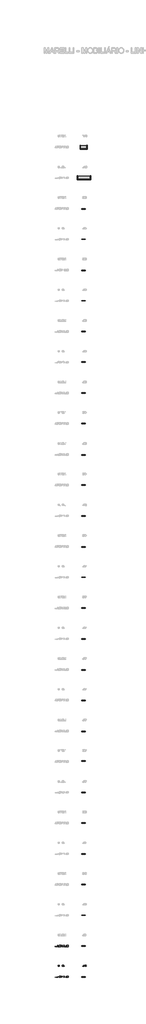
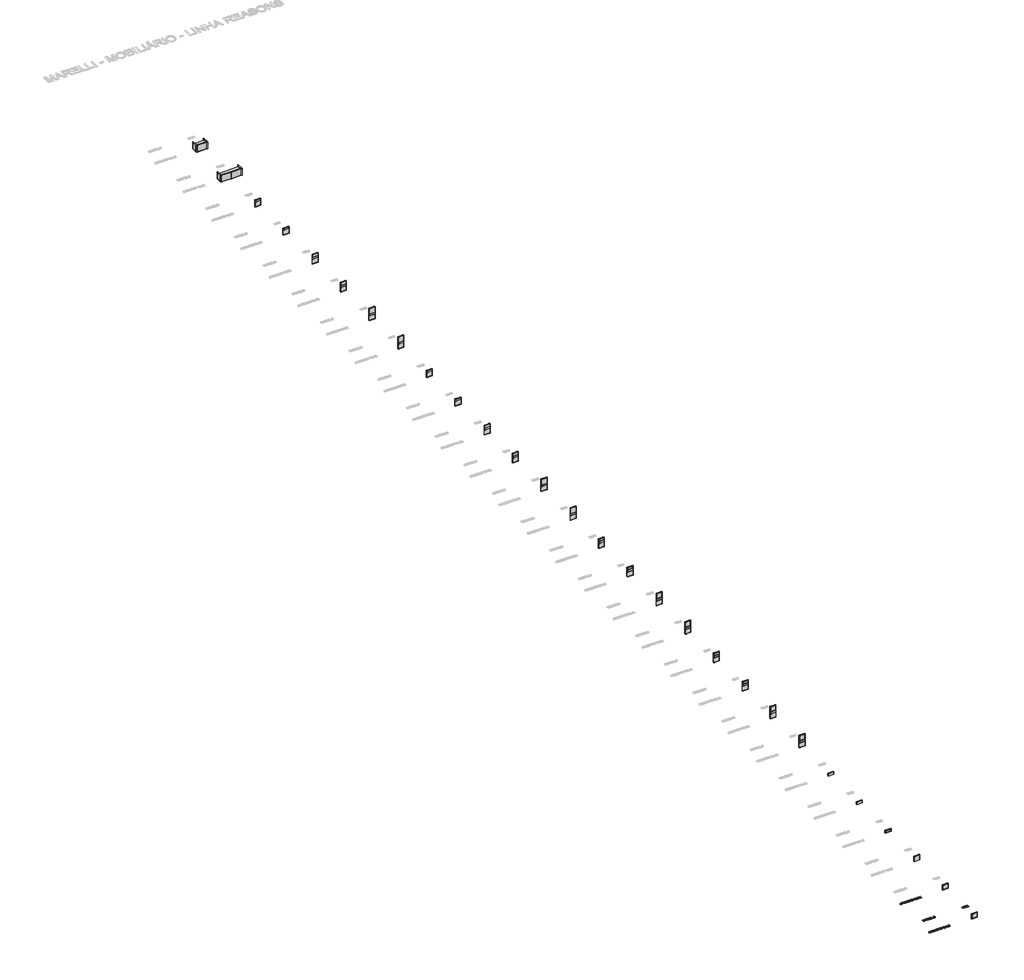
# One storey, part 1 of 15: 28 furniture elements, 4 proxies.
"""IFC4 building model written with IfcOpenShell, lengths in millimetres."""

from ifc_helpers import new_model, si_unit, origin, origin_with_axes, place, context, project, spatial, polyline, outline, extrude, transform, mapped, element, save
from components import ba_01_71997d73, ba_02_3c27d150, rmc_0809_a_63fcd4b5, rmc_0809_ad_62c178f1, rmc_0813_a_a7bc62cc, rmc_0813_ad_bde6f8cc, rtc_0817_ad_4a41ce44, rmc_0817_ad_4f5cd23f, rme_0803_7866bef5, rme_0807_42b6b41e, rmv_0813_a_d4f5b42d, rmv_0813_ad_31e4a156, rmv_0817_a_99f153d6, rmv_0817_ad_dfffa145, rtv_0817_ad_a64ea4e4, rve_0803_32e8251a, rve_0807_c5e54516

model = new_model("IFC4")

# Units and contexts
model_context = context("Model", 3, world=origin())
ifc_project = project(units=[si_unit("LENGTHUNIT", "METRE", prefix="MILLI")], contexts=[model_context])

# Site, building, storey
site = spatial("IfcSite", under=ifc_project)
building = spatial("IfcBuilding", under=site)
storey = spatial("IfcBuildingStorey", under=building, Name="Marelli - Linha REASONS - Planta Baixa", Elevation=0.0)

# Proxies
placement = place(None, origin())
element("IfcBuildingElementProxy", 1, Name="300mm Arial", ObjectType="300mm Arial", at=placement, inside=storey, context=model_context, shape_type="SweptSolid", body=[
    extrude(outline(polyline([(9390.580402, -175280.5663201), (9510.8778144, -174979.1973896), (9542.9571244, -174979.1973896), (9663.2545368, -175280.5663201), (9623.449705, -175280.5663201), (9588.9423738, -175186.3885293), (9464.8189886, -175186.3885293), (9430.3852339, -175280.5663201), (9390.580402, -175280.5663201)]), holes=[polyline([(9478.6513517, -175148.717413), (9575.1835872, -175148.717413), (9548.0338959, -175074.6259792), (9526.9174694, -175016.8685059), (9508.1554877, -175068.1512561), (9478.6513517, -175148.717413)])]), origin_with_axes(), (0.0, 0.0, 1.0), 10.0),
    extrude(outline(polyline([(9703.5008271, -175280.5663201), (9703.5008271, -174979.1973896), (9833.3631714, -174979.1973896), (9868.2659757, -174981.2299376), (9893.6590304, -174987.3275817), (9912.2186771, -174998.5847708), (9926.6212572, -175016.0959537), (9935.8642923, -175037.8101885), (9938.945304, -175061.6765329), (9933.8409413, -175091.3646099), (9918.5278533, -175115.9759154), (9906.9280741, -175126.0052983), (9892.5461874, -175134.0205273), (9855.4360911, -175144.0085235), (9876.8468232, -175160.1217548), (9907.3810288, -175198.8965171), (9957.6337094, -175280.5663201), (9913.855752, -175280.5663201), (9874.6395313, -175218.0999573), (9846.3126176, -175176.750021), (9826.4102017, -175157.2154871), (9808.4943485, -175150.0417882), (9786.642158, -175148.717413), (9741.1719434, -175148.717413), (9741.1719434, -175280.5663201), (9703.5008271, -175280.5663201)]), holes=[polyline([(9741.1719434, -175111.0462967), (9825.4904967, -175111.0462967), (9849.706329, -175109.7127245), (9868.4959019, -175105.7120078), (9882.6409647, -175098.7774322), (9892.9232664, -175088.6422832), (9899.1864574, -175076.3826157), (9901.2741877, -175063.0744845), (9897.2918651, -175044.6987789), (9885.3448973, -175029.8915286), (9864.7894908, -175020.1242616), (9834.9818522, -175016.8685059), (9741.1719434, -175016.8685059), (9741.1719434, -175111.0462967)])]), origin_with_axes(), (0.0, 0.0, 1.0), 10.0),
    extrude(outline(polyline([(10231.2643374, -175244.4403081), (10255.5997314, -175263.036743), (10277.9853508, -175275.8574305), (10267.8318077, -175303.4485802), (10236.7641732, -175289.0460001), (10205.8069033, -175268.205485), (10170.9500843, -175281.0077785), (10132.5983863, -175285.2752096), (10094.0627473, -175280.3547879), (10059.2427164, -175265.5935229), (10030.0788713, -175241.9203165), (10008.5117893, -175210.2640708), (9995.185264, -175172.3630282), (9990.7430889, -175129.9554312), (9995.176067, -175087.511046), (10008.4750011, -175049.0581805), (10029.9593096, -175016.9512794), (10058.9484108, -174993.5447874), (10093.639683, -174979.2525719), (10132.2305043, -174974.4885001), (10171.1248282, -174979.3629365), (10205.9908443, -174993.9862458), (10234.9339603, -175017.3835407), (10256.0595839, -175048.5799339), (10268.9722419, -175085.9199564), (10273.2764612, -175127.7481393), (10270.6644991, -175162.5313819), (10262.8286126, -175193.5990164), (10249.7136194, -175220.9142546), (10231.2643374, -175244.4403081)]), holes=[polyline([(10142.9726585, -175194.3347804), (10174.6472983, -175206.3093393), (10200.215097, -175222.9559996), (10215.6983305, -175205.4816049), (10226.7577829, -175184.1076609), (10233.3934544, -175158.8341679), (10235.6053449, -175129.6611256), (10232.478348, -175096.5057608), (10223.0973571, -175067.8201623), (10207.6922985, -175044.3308969), (10186.4930986, -175026.7645316), (10160.934497, -175015.8108452), (10132.4512335, -175012.1596164), (10110.966925, -175014.0059242), (10091.3956028, -175019.5448474), (10073.7372671, -175028.7763863), (10057.9919177, -175041.7005406), (10045.0516685, -175058.2897193), (10035.8086334, -175078.5163313), (10030.2628123, -175102.3803764), (10028.4142052, -175129.8818548), (10030.2421189, -175156.6659634), (10035.7258599, -175180.1437324), (10044.8654282, -175200.3151621), (10057.6608239, -175217.1802523), (10073.2981079, -175230.4906827), (10090.9633415, -175239.9981331), (10110.6565245, -175245.7026032), (10132.3776571, -175247.6040933), (10153.2917485, -175245.6727128), (10172.918253, -175239.8785714), (10153.6228423, -175229.853787), (10133.2605739, -175223.1767288), (10142.9726585, -175194.3347804)])]), origin_with_axes(), (0.0, 0.0, 1.0), 10.0),
    extrude(outline(polyline([(10527.5564963, -174979.1973896), (10565.2276126, -174979.1973896), (10565.2276126, -175153.0584205), (10562.6708327, -175193.7737604), (10555.0004931, -175225.1265034), (10540.6714894, -175249.3147446), (10518.1387172, -175268.5365788), (10487.3469942, -175281.0905519), (10448.2411381, -175285.2752096), (10409.9906077, -175281.6331779), (10379.4104168, -175270.7070826), (10356.4913685, -175252.8740029), (10341.2242657, -175228.5110178), (10332.6434182, -175195.8338995), (10329.7831357, -175153.0584205), (10329.7831357, -174979.1973896), (10367.454252, -174979.1973896), (10367.454252, -175151.7340454), (10369.3120561, -175185.588386), (10374.8854683, -175209.1604248), (10384.9838291, -175225.4851883), (10400.4164788, -175237.597703), (10420.5396239, -175245.1024957), (10444.709471, -175247.6040933), (10483.0243808, -175242.6560805), (10497.3671801, -175236.4710644), (10508.500209, -175227.812042), (10516.8373347, -175215.6351479), (10522.7924245, -175198.8965171), (10527.5564963, -175151.7340454), (10527.5564963, -174979.1973896)])), origin_with_axes(), (0.0, 0.0, 1.0), 10.0),
    extrude(outline(polyline([(10635.8609557, -175280.5663201), (10635.8609557, -174979.1973896), (10673.532072, -174979.1973896), (10673.532072, -175280.5663201), (10635.8609557, -175280.5663201)])), origin_with_axes(), (0.0, 0.0, 1.0), 10.0),
    extrude(outline(polyline([(10837.9017474, -175280.5663201), (10717.972217, -174979.1973896), (10758.2920837, -174979.1973896), (10838.563935, -175196.3213432), (10854.8243192, -175245.2496485), (10870.8639742, -175196.3213432), (10951.3565547, -174979.1973896), (10991.6764214, -174979.1973896), (10876.8236625, -175280.5663201), (10837.9017474, -175280.5663201)])), origin_with_axes(), (0.0, 0.0, 1.0), 10.0),
    extrude(outline(polyline([(11012.5721187, -175133.8549804), (11015.0829134, -175098.5061192), (11022.6152972, -175067.213157), (11035.1692703, -175039.9760937), (11052.7448326, -175016.7949295), (11074.288922, -174998.2858666), (11098.7484761, -174985.0651074), (11126.1234951, -174977.1326519), (11156.4139789, -174974.4885001), (11195.9428992, -174979.454907), (11231.3883295, -174994.3541278), (11260.8188891, -175018.1376988), (11282.3031976, -175049.7571563), (11295.4365848, -175087.68579), (11299.8143806, -175130.3968896), (11295.2066586, -175173.6782064), (11281.3834926, -175212.140269), (11259.1082378, -175243.8149088), (11229.1442493, -175266.733957), (11194.0023217, -175280.6398965), (11156.1932497, -175285.2752096), (11116.057324, -175280.1524528), (11080.4095587, -175264.7841825), (11051.0525754, -175240.5591531), (11029.7889961, -175208.8661192), (11016.8763381, -175172.3998164), (11012.5721187, -175133.8549804)]), holes=[polyline([(11050.2432351, -175134.2228624), (11052.126331, -175159.1974513), (11057.7756189, -175181.3669401), (11067.1910987, -175200.7313286), (11080.3727705, -175217.2906169), (11096.3963306, -175230.5527628), (11114.3374757, -175240.0257242), (11134.1962056, -175245.709501), (11155.9725205, -175247.6040933), (11178.1213158, -175245.6911069), (11198.2145706, -175239.9521478), (11216.2522846, -175230.3872159), (11232.2344581, -175216.9963113), (11245.3195608, -175200.0875351), (11254.6660627, -175179.9689885), (11260.2739639, -175156.6406715), (11262.1432643, -175130.102584), (11258.9426909, -175096.7540812), (11249.3409708, -175067.9305269), (11233.5864244, -175044.358488), (11211.9273719, -175026.7645316), (11185.7985532, -175015.8108452), (11156.6347081, -175012.1596164), (11135.6148506, -175013.9185522), (11116.1125063, -175019.1953595), (11098.1276752, -175027.9900385), (11081.6603574, -175040.302589), (11067.9153664, -175056.7262208), (11058.0975156, -175077.8541437), (11052.2068052, -175103.6863575), (11050.2432351, -175134.2228624)])]), origin_with_axes(), (0.0, 0.0, 1.0), 10.0),
    extrude(outline(polyline([(11469.334404, -175280.5663201), (11469.334404, -174979.1973896), (11584.3343156, -174979.1973896), (11615.9629702, -174981.4138786), (11640.6570491, -174988.0633457), (11659.5845778, -174999.3113377), (11673.9135815, -175015.3234015), (11682.9358874, -175034.1589597), (11685.9433227, -175053.8774346), (11683.414134, -175072.0232141), (11675.8265679, -175089.0837416), (11663.125442, -175104.0105535), (11645.2555741, -175115.7551862), (11666.6019268, -175126.9020107), (11682.3748674, -175143.8613707), (11692.1145432, -175165.5112261), (11695.3611018, -175190.7295368), (11693.1446128, -175211.7447958), (11686.4951457, -175231.2333445), (11676.5715289, -175247.8064284), (11664.5325906, -175260.0752929), (11649.7897196, -175268.9596431), (11631.7543048, -175275.3791839), (11583.4513989, -175280.5663201), (11469.334404, -175280.5663201)]), holes=[polyline([(11507.0055203, -175101.6285176), (11575.7994534, -175101.6285176), (11615.9721672, -175098.3911561), (11630.0344565, -175092.8085468), (11640.1420143, -175084.4484284), (11646.2396584, -175073.4395597), (11648.2722064, -175059.9106994), (11646.3776141, -175046.7773121), (11640.6938373, -175035.3361821), (11631.4783933, -175026.4058467), (11618.9887996, -175020.8048433), (11570.575529, -175016.8685059), (11507.0055203, -175016.8685059), (11507.0055203, -175101.6285176)]), polyline([(11507.0055203, -175242.8952038), (11584.2607393, -175242.8952038), (11612.2197709, -175241.4236758), (11635.8745832, -175233.2199073), (11651.5463562, -175216.4812765), (11656.1540782, -175204.6538704), (11657.6899855, -175191.0974188), (11655.8873637, -175175.3520694), (11650.4794984, -175161.814012), (11641.0341282, -175151.2282076), (11627.1189917, -175144.3396173), (11607.4097138, -175140.5596298), (11580.5819193, -175139.2996339), (11507.0055203, -175139.2996339), (11507.0055203, -175242.8952038)])]), origin_with_axes(), (0.0, 0.0, 1.0), 10.0),
    extrude(outline(polyline([(11751.8677763, -175280.5663201), (11751.8677763, -175242.8952038), (11789.5388926, -175242.8952038), (11789.5388926, -175280.5663201), (11751.8677763, -175280.5663201)])), origin_with_axes(), (0.0, 0.0, 1.0), 10.0),
    extrude(outline(polyline([(11869.5900147, -175280.5663201), (11869.5900147, -174979.1973896), (11907.261131, -174979.1973896), (11907.261131, -175280.5663201), (11869.5900147, -175280.5663201)])), origin_with_axes(), (0.0, 0.0, 1.0), 10.0),
    extrude(outline(polyline([(11987.3122532, -175280.5663201), (11987.3122532, -175242.8952038), (12024.9833695, -175242.8952038), (12024.9833695, -175280.5663201), (11987.3122532, -175280.5663201)])), origin_with_axes(), (0.0, 0.0, 1.0), 10.0),
    extrude(outline(polyline([(12100.3256021, -175280.5663201), (12100.3256021, -174979.1973896), (12165.1464096, -174979.1973896), (12226.803432, -175191.6124536), (12239.2378435, -175235.9790223), (12252.7023245, -175187.9336337), (12313.3292773, -174979.1973896), (12378.1500848, -174979.1973896), (12378.1500848, -175280.5663201), (12340.4789685, -175280.5663201), (12340.4789685, -175016.8685059), (12264.7688539, -175280.5663201), (12213.706833, -175280.5663201), (12137.9967184, -175016.8685059), (12137.9967184, -175280.5663201), (12100.3256021, -175280.5663201)])), origin_with_axes(), (0.0, 0.0, 1.0), 10.0),
])
element("IfcBuildingElementProxy", 2, Name="300mm Arial", ObjectType="300mm Arial", at=placement, inside=storey, context=model_context, shape_type="SweptSolid", body=[
    extrude(outline(polyline([(9390.580402, -182280.5663201), (9510.8778144, -181979.1973896), (9542.9571244, -181979.1973896), (9663.2545368, -182280.5663201), (9623.449705, -182280.5663201), (9588.9423738, -182186.3885293), (9464.8189886, -182186.3885293), (9430.3852339, -182280.5663201), (9390.580402, -182280.5663201)]), holes=[polyline([(9478.6513517, -182148.717413), (9575.1835872, -182148.717413), (9548.0338959, -182074.6259792), (9526.9174694, -182016.8685059), (9508.1554877, -182068.1512561), (9478.6513517, -182148.717413)])]), origin_with_axes(), (0.0, 0.0, 1.0), 10.0),
    extrude(outline(polyline([(9703.5008271, -182280.5663201), (9703.5008271, -181979.1973896), (9833.3631714, -181979.1973896), (9868.2659757, -181981.2299376), (9893.6590304, -181987.3275817), (9912.2186771, -181998.5847708), (9926.6212572, -182016.0959537), (9935.8642923, -182037.8101885), (9938.945304, -182061.6765329), (9933.8409413, -182091.3646099), (9918.5278533, -182115.9759154), (9906.9280741, -182126.0052983), (9892.5461874, -182134.0205273), (9855.4360911, -182144.0085235), (9876.8468232, -182160.1217548), (9907.3810288, -182198.8965171), (9957.6337094, -182280.5663201), (9913.855752, -182280.5663201), (9874.6395313, -182218.0999573), (9846.3126176, -182176.750021), (9826.4102017, -182157.2154871), (9808.4943485, -182150.0417882), (9786.642158, -182148.717413), (9741.1719434, -182148.717413), (9741.1719434, -182280.5663201), (9703.5008271, -182280.5663201)]), holes=[polyline([(9741.1719434, -182111.0462967), (9825.4904967, -182111.0462967), (9849.706329, -182109.7127245), (9868.4959019, -182105.7120078), (9882.6409647, -182098.7774322), (9892.9232664, -182088.6422832), (9899.1864574, -182076.3826157), (9901.2741877, -182063.0744845), (9897.2918651, -182044.6987789), (9885.3448973, -182029.8915286), (9864.7894908, -182020.1242616), (9834.9818522, -182016.8685059), (9741.1719434, -182016.8685059), (9741.1719434, -182111.0462967)])]), origin_with_axes(), (0.0, 0.0, 1.0), 10.0),
    extrude(outline(polyline([(10231.2643374, -182244.4403081), (10255.5997314, -182263.036743), (10277.9853508, -182275.8574305), (10267.8318077, -182303.4485802), (10236.7641732, -182289.0460001), (10205.8069033, -182268.205485), (10170.9500843, -182281.0077785), (10132.5983863, -182285.2752096), (10094.0627473, -182280.3547879), (10059.2427164, -182265.5935229), (10030.0788713, -182241.9203165), (10008.5117893, -182210.2640708), (9995.185264, -182172.3630282), (9990.7430889, -182129.9554312), (9995.176067, -182087.511046), (10008.4750011, -182049.0581805), (10029.9593096, -182016.9512794), (10058.9484108, -181993.5447874), (10093.639683, -181979.2525719), (10132.2305043, -181974.4885001), (10171.1248282, -181979.3629365), (10205.9908443, -181993.9862458), (10234.9339603, -182017.3835407), (10256.0595839, -182048.5799339), (10268.9722419, -182085.9199564), (10273.2764612, -182127.7481393), (10270.6644991, -182162.5313819), (10262.8286126, -182193.5990164), (10249.7136194, -182220.9142546), (10231.2643374, -182244.4403081)]), holes=[polyline([(10142.9726585, -182194.3347804), (10174.6472983, -182206.3093393), (10200.215097, -182222.9559996), (10215.6983305, -182205.4816049), (10226.7577829, -182184.1076609), (10233.3934544, -182158.8341679), (10235.6053449, -182129.6611256), (10232.478348, -182096.5057608), (10223.0973571, -182067.8201623), (10207.6922985, -182044.3308969), (10186.4930986, -182026.7645316), (10160.934497, -182015.8108452), (10132.4512335, -182012.1596164), (10110.966925, -182014.0059242), (10091.3956028, -182019.5448474), (10073.7372671, -182028.7763863), (10057.9919177, -182041.7005406), (10045.0516685, -182058.2897193), (10035.8086334, -182078.5163313), (10030.2628123, -182102.3803764), (10028.4142052, -182129.8818548), (10030.2421189, -182156.6659634), (10035.7258599, -182180.1437324), (10044.8654282, -182200.3151621), (10057.6608239, -182217.1802523), (10073.2981079, -182230.4906827), (10090.9633415, -182239.9981331), (10110.6565245, -182245.7026032), (10132.3776571, -182247.6040933), (10153.2917485, -182245.6727128), (10172.918253, -182239.8785714), (10153.6228423, -182229.853787), (10133.2605739, -182223.1767288), (10142.9726585, -182194.3347804)])]), origin_with_axes(), (0.0, 0.0, 1.0), 10.0),
    extrude(outline(polyline([(10527.5564963, -181979.1973896), (10565.2276126, -181979.1973896), (10565.2276126, -182153.0584205), (10562.6708327, -182193.7737604), (10555.0004931, -182225.1265034), (10540.6714894, -182249.3147446), (10518.1387172, -182268.5365788), (10487.3469942, -182281.0905519), (10448.2411381, -182285.2752096), (10409.9906077, -182281.6331779), (10379.4104168, -182270.7070826), (10356.4913685, -182252.8740029), (10341.2242657, -182228.5110178), (10332.6434182, -182195.8338995), (10329.7831357, -182153.0584205), (10329.7831357, -181979.1973896), (10367.454252, -181979.1973896), (10367.454252, -182151.7340454), (10369.3120561, -182185.588386), (10374.8854683, -182209.1604248), (10384.9838291, -182225.4851883), (10400.4164788, -182237.597703), (10420.5396239, -182245.1024957), (10444.709471, -182247.6040933), (10483.0243808, -182242.6560805), (10497.3671801, -182236.4710644), (10508.500209, -182227.812042), (10516.8373347, -182215.6351479), (10522.7924245, -182198.8965171), (10527.5564963, -182151.7340454), (10527.5564963, -181979.1973896)])), origin_with_axes(), (0.0, 0.0, 1.0), 10.0),
    extrude(outline(polyline([(10635.8609557, -182280.5663201), (10635.8609557, -181979.1973896), (10673.532072, -181979.1973896), (10673.532072, -182280.5663201), (10635.8609557, -182280.5663201)])), origin_with_axes(), (0.0, 0.0, 1.0), 10.0),
    extrude(outline(polyline([(10837.9017474, -182280.5663201), (10717.972217, -181979.1973896), (10758.2920837, -181979.1973896), (10838.563935, -182196.3213432), (10854.8243192, -182245.2496485), (10870.8639742, -182196.3213432), (10951.3565547, -181979.1973896), (10991.6764214, -181979.1973896), (10876.8236625, -182280.5663201), (10837.9017474, -182280.5663201)])), origin_with_axes(), (0.0, 0.0, 1.0), 10.0),
    extrude(outline(polyline([(11012.5721187, -182133.8549804), (11015.0829134, -182098.5061192), (11022.6152972, -182067.213157), (11035.1692703, -182039.9760937), (11052.7448326, -182016.7949295), (11074.288922, -181998.2858666), (11098.7484761, -181985.0651074), (11126.1234951, -181977.1326519), (11156.4139789, -181974.4885001), (11195.9428992, -181979.454907), (11231.3883295, -181994.3541278), (11260.8188891, -182018.1376988), (11282.3031976, -182049.7571563), (11295.4365848, -182087.68579), (11299.8143806, -182130.3968896), (11295.2066586, -182173.6782064), (11281.3834926, -182212.140269), (11259.1082378, -182243.8149088), (11229.1442493, -182266.733957), (11194.0023217, -182280.6398965), (11156.1932497, -182285.2752096), (11116.057324, -182280.1524528), (11080.4095587, -182264.7841825), (11051.0525754, -182240.5591531), (11029.7889961, -182208.8661192), (11016.8763381, -182172.3998164), (11012.5721187, -182133.8549804)]), holes=[polyline([(11050.2432351, -182134.2228624), (11052.126331, -182159.1974513), (11057.7756189, -182181.3669401), (11067.1910987, -182200.7313286), (11080.3727705, -182217.2906169), (11096.3963306, -182230.5527628), (11114.3374757, -182240.0257242), (11134.1962056, -182245.709501), (11155.9725205, -182247.6040933), (11178.1213158, -182245.6911069), (11198.2145706, -182239.9521478), (11216.2522846, -182230.3872159), (11232.2344581, -182216.9963113), (11245.3195608, -182200.0875351), (11254.6660627, -182179.9689885), (11260.2739639, -182156.6406715), (11262.1432643, -182130.102584), (11258.9426909, -182096.7540812), (11249.3409708, -182067.9305269), (11233.5864244, -182044.358488), (11211.9273719, -182026.7645316), (11185.7985532, -182015.8108452), (11156.6347081, -182012.1596164), (11135.6148506, -182013.9185522), (11116.1125063, -182019.1953595), (11098.1276752, -182027.9900385), (11081.6603574, -182040.302589), (11067.9153664, -182056.7262208), (11058.0975156, -182077.8541437), (11052.2068052, -182103.6863575), (11050.2432351, -182134.2228624)])]), origin_with_axes(), (0.0, 0.0, 1.0), 10.0),
    extrude(outline(polyline([(11469.334404, -182280.5663201), (11469.334404, -181979.1973896), (11584.3343156, -181979.1973896), (11615.9629702, -181981.4138786), (11640.6570491, -181988.0633457), (11659.5845778, -181999.3113377), (11673.9135815, -182015.3234015), (11682.9358874, -182034.1589597), (11685.9433227, -182053.8774346), (11683.414134, -182072.0232141), (11675.8265679, -182089.0837416), (11663.125442, -182104.0105535), (11645.2555741, -182115.7551862), (11666.6019268, -182126.9020107), (11682.3748674, -182143.8613707), (11692.1145432, -182165.5112261), (11695.3611018, -182190.7295368), (11693.1446128, -182211.7447958), (11686.4951457, -182231.2333445), (11676.5715289, -182247.8064284), (11664.5325906, -182260.0752929), (11649.7897196, -182268.9596431), (11631.7543048, -182275.3791839), (11583.4513989, -182280.5663201), (11469.334404, -182280.5663201)]), holes=[polyline([(11507.0055203, -182101.6285176), (11575.7994534, -182101.6285176), (11615.9721672, -182098.3911561), (11630.0344565, -182092.8085468), (11640.1420143, -182084.4484284), (11646.2396584, -182073.4395597), (11648.2722064, -182059.9106994), (11646.3776141, -182046.7773121), (11640.6938373, -182035.3361821), (11631.4783933, -182026.4058467), (11618.9887996, -182020.8048433), (11570.575529, -182016.8685059), (11507.0055203, -182016.8685059), (11507.0055203, -182101.6285176)]), polyline([(11507.0055203, -182242.8952038), (11584.2607393, -182242.8952038), (11612.2197709, -182241.4236758), (11635.8745832, -182233.2199073), (11651.5463562, -182216.4812765), (11656.1540782, -182204.6538704), (11657.6899855, -182191.0974188), (11655.8873637, -182175.3520694), (11650.4794984, -182161.814012), (11641.0341282, -182151.2282076), (11627.1189917, -182144.3396173), (11607.4097138, -182140.5596298), (11580.5819193, -182139.2996339), (11507.0055203, -182139.2996339), (11507.0055203, -182242.8952038)])]), origin_with_axes(), (0.0, 0.0, 1.0), 10.0),
    extrude(outline(polyline([(11751.8677763, -182280.5663201), (11751.8677763, -182242.8952038), (11789.5388926, -182242.8952038), (11789.5388926, -182280.5663201), (11751.8677763, -182280.5663201)])), origin_with_axes(), (0.0, 0.0, 1.0), 10.0),
    extrude(outline(polyline([(11869.5900147, -182280.5663201), (11869.5900147, -181979.1973896), (11907.261131, -181979.1973896), (11907.261131, -182280.5663201), (11869.5900147, -182280.5663201)])), origin_with_axes(), (0.0, 0.0, 1.0), 10.0),
    extrude(outline(polyline([(11987.3122532, -182280.5663201), (11987.3122532, -182242.8952038), (12024.9833695, -182242.8952038), (12024.9833695, -182280.5663201), (11987.3122532, -182280.5663201)])), origin_with_axes(), (0.0, 0.0, 1.0), 10.0),
    extrude(outline(polyline([(12100.3256021, -182280.5663201), (12100.3256021, -181979.1973896), (12165.1464096, -181979.1973896), (12226.803432, -182191.6124536), (12239.2378435, -182235.9790223), (12252.7023245, -182187.9336337), (12313.3292773, -181979.1973896), (12378.1500848, -181979.1973896), (12378.1500848, -182280.5663201), (12340.4789685, -182280.5663201), (12340.4789685, -182016.8685059), (12264.7688539, -182280.5663201), (12213.706833, -182280.5663201), (12137.9967184, -182016.8685059), (12137.9967184, -182280.5663201), (12100.3256021, -182280.5663201)])), origin_with_axes(), (0.0, 0.0, 1.0), 10.0),
])
element("IfcBuildingElementProxy", 3, Name="300mm Arial", ObjectType="300mm Arial", at=placement, inside=storey, context=model_context, shape_type="SweptSolid", body=[
    extrude(outline(polyline([(10033.1230948, -179780.5663201), (10033.1230948, -179479.1973896), (10097.9439023, -179479.1973896), (10159.6009247, -179691.6124536), (10172.0353362, -179735.9790223), (10185.4998172, -179687.9336337), (10246.12677, -179479.1973896), (10310.9475775, -179479.1973896), (10310.9475775, -179780.5663201), (10273.2764612, -179780.5663201), (10273.2764612, -179516.8685059), (10197.5663466, -179780.5663201), (10146.5043257, -179780.5663201), (10070.7942111, -179516.8685059), (10070.7942111, -179780.5663201), (10033.1230948, -179780.5663201)])), origin_with_axes(), (0.0, 0.0, 1.0), 10.0),
    extrude(outline(polyline([(10362.7453625, -179633.8549804), (10365.2561571, -179598.5061192), (10372.7885409, -179567.213157), (10385.342514, -179539.9760937), (10402.9180763, -179516.7949295), (10424.4621657, -179498.2858666), (10448.9217198, -179485.0651074), (10476.2967388, -179477.1326519), (10506.5872226, -179474.4885001), (10546.116143, -179479.454907), (10581.5615732, -179494.3541278), (10610.9921328, -179518.1376988), (10632.4764413, -179549.7571563), (10645.6098286, -179587.68579), (10649.9876243, -179630.3968896), (10645.3799023, -179673.6782064), (10631.5567363, -179712.140269), (10609.2814815, -179743.8149088), (10579.317493, -179766.733957), (10544.1755654, -179780.6398965), (10506.3664934, -179785.2752096), (10466.2305677, -179780.1524528), (10430.5828024, -179764.7841825), (10401.2258192, -179740.5591531), (10379.9622398, -179708.8661192), (10367.0495818, -179672.3998164), (10362.7453625, -179633.8549804)]), holes=[polyline([(10400.4164788, -179634.2228624), (10402.2995747, -179659.1974513), (10407.9488626, -179681.3669401), (10417.3643424, -179700.7313286), (10430.5460142, -179717.2906169), (10446.5695743, -179730.5527628), (10464.5107194, -179740.0257242), (10484.3694493, -179745.709501), (10506.1457642, -179747.6040933), (10528.2945596, -179745.6911069), (10548.3878143, -179739.9521478), (10566.4255284, -179730.3872159), (10582.4077018, -179716.9963113), (10595.4928045, -179700.0875351), (10604.8393064, -179679.9689885), (10610.4472076, -179656.6406715), (10612.316508, -179630.102584), (10609.1159346, -179596.7540812), (10599.5142146, -179567.9305269), (10583.7596681, -179544.358488), (10562.1006157, -179526.7645316), (10535.9717969, -179515.8108452), (10506.8079518, -179512.1596164), (10485.7880943, -179513.9185522), (10466.28575, -179519.1953595), (10448.300919, -179527.9900385), (10431.8336012, -179540.302589), (10418.0886101, -179556.7262208), (10408.2707594, -179577.8541437), (10402.3800489, -179603.6863575), (10400.4164788, -179634.2228624)])]), origin_with_axes(), (0.0, 0.0, 1.0), 10.0),
    extrude(outline(polyline([(10701.7854092, -179780.5663201), (10701.7854092, -179479.1973896), (10805.7488611, -179479.1973896), (10859.5332088, -179483.5383972), (10883.555903, -179491.9077126), (10903.826201, -179505.0962821), (10924.666716, -179528.0521186), (10939.5107545, -179556.5997614), (10948.3951047, -179590.1873876), (10951.3565547, -179628.2631741), (10949.3515979, -179660.6091985), (10943.3367273, -179689.0740679), (10934.1764656, -179713.3082943), (10922.7353355, -179732.9623899), (10909.5651601, -179748.477813), (10895.2177623, -179760.2960221), (10878.745846, -179769.0608107), (10859.202115, -179775.4159721), (10810.7520562, -179780.5663201), (10701.7854092, -179780.5663201)]), holes=[polyline([(10739.4565255, -179742.8952038), (10806.1167431, -179742.8952038), (10833.6894986, -179741.5340404), (10854.60359, -179737.4505502), (10870.3857276, -179730.8838566), (10882.5626217, -179722.0730828), (10895.6500236, -179705.7667134), (10905.48167, -179684.6594839), (10911.6344963, -179658.6594239), (10913.6854384, -179627.6745629), (10909.6663276, -179586.6189322), (10897.6089953, -179556.3054558), (10879.7943096, -179535.4833349), (10858.5031392, -179522.9017706), (10836.8348897, -179518.3768221), (10805.0866735, -179516.8685059), (10739.4565255, -179516.8685059), (10739.4565255, -179742.8952038)])]), origin_with_axes(), (0.0, 0.0, 1.0), 10.0),
    extrude(outline(polyline([(11003.1543397, -179780.5663201), (11003.1543397, -179479.1973896), (11219.7632584, -179479.1973896), (11219.7632584, -179516.8685059), (11040.825456, -179516.8685059), (11040.825456, -179606.3374072), (11210.3454794, -179606.3374072), (11210.3454794, -179644.0085235), (11040.825456, -179644.0085235), (11040.825456, -179742.8952038), (11224.472148, -179742.8952038), (11224.472148, -179780.5663201), (11003.1543397, -179780.5663201)])), origin_with_axes(), (0.0, 0.0, 1.0), 10.0),
    extrude(outline(polyline([(11280.9788224, -179780.5663201), (11280.9788224, -179479.1973896), (11318.6499387, -179479.1973896), (11318.6499387, -179742.8952038), (11469.334404, -179742.8952038), (11469.334404, -179780.5663201), (11280.9788224, -179780.5663201)])), origin_with_axes(), (0.0, 0.0, 1.0), 10.0),
    extrude(outline(polyline([(11497.5877412, -179633.8549804), (11500.0985358, -179598.5061192), (11507.6309197, -179567.213157), (11520.1848927, -179539.9760937), (11537.7604551, -179516.7949295), (11559.3045444, -179498.2858666), (11583.7640986, -179485.0651074), (11611.1391175, -179477.1326519), (11641.4296013, -179474.4885001), (11680.9585217, -179479.454907), (11716.4039519, -179494.3541278), (11745.8345115, -179518.1376988), (11767.3188201, -179549.7571563), (11780.4522073, -179587.68579), (11784.830003, -179630.3968896), (11780.222281, -179673.6782064), (11766.3991151, -179712.140269), (11744.1238603, -179743.8149088), (11714.1598717, -179766.733957), (11679.0179442, -179780.6398965), (11641.2088721, -179785.2752096), (11601.0729464, -179780.1524528), (11565.4251811, -179764.7841825), (11536.0681979, -179740.5591531), (11514.8046186, -179708.8661192), (11501.8919605, -179672.3998164), (11497.5877412, -179633.8549804)]), holes=[polyline([(11535.2588575, -179634.2228624), (11537.1419535, -179659.1974513), (11542.7912413, -179681.3669401), (11552.2067212, -179700.7313286), (11565.3883929, -179717.2906169), (11581.4119531, -179730.5527628), (11599.3530981, -179740.0257242), (11619.2118281, -179745.709501), (11640.9881429, -179747.6040933), (11663.1369383, -179745.6911069), (11683.230193, -179739.9521478), (11701.2679071, -179730.3872159), (11717.2500805, -179716.9963113), (11730.3351832, -179700.0875351), (11739.6816852, -179679.9689885), (11745.2895863, -179656.6406715), (11747.1588867, -179630.102584), (11743.9583134, -179596.7540812), (11734.3565933, -179567.9305269), (11718.6020468, -179544.358488), (11696.9429944, -179526.7645316), (11670.8141757, -179515.8108452), (11641.6503305, -179512.1596164), (11620.630473, -179513.9185522), (11601.1281287, -179519.1953595), (11583.1432977, -179527.9900385), (11566.6759799, -179540.302589), (11552.9309888, -179556.7262208), (11543.1131381, -179577.8541437), (11537.2224276, -179603.6863575), (11535.2588575, -179634.2228624)])]), origin_with_axes(), (0.0, 0.0, 1.0), 10.0),
])
element("IfcBuildingElementProxy", 4, Name="300mm Arial", ObjectType="300mm Arial", at=placement, inside=storey, context=model_context, shape_type="SweptSolid", body=[
    extrude(outline(polyline([(15588.7720603, -179780.5663201), (15588.7720603, -179479.1973896), (15718.6344046, -179479.1973896), (15753.5372089, -179481.2299376), (15778.9302636, -179487.3275817), (15797.4899103, -179498.5847708), (15811.8924904, -179516.0959537), (15821.1355255, -179537.8101885), (15824.2165372, -179561.6765329), (15819.1121745, -179591.3646099), (15803.7990865, -179615.9759154), (15792.1993073, -179626.0052983), (15777.8174206, -179634.0205273), (15740.7073243, -179644.0085235), (15762.1180564, -179660.1217548), (15792.652262, -179698.8965171), (15842.9049426, -179780.5663201), (15799.1269851, -179780.5663201), (15759.9107645, -179718.0999573), (15731.5838508, -179676.750021), (15711.6814349, -179657.2154871), (15693.7655817, -179650.0417882), (15671.9133912, -179648.717413), (15626.4431766, -179648.717413), (15626.4431766, -179780.5663201), (15588.7720603, -179780.5663201)]), holes=[polyline([(15626.4431766, -179611.0462967), (15710.7617299, -179611.0462967), (15734.9775622, -179609.7127245), (15753.7671351, -179605.7120078), (15767.9121979, -179598.7774322), (15778.1944996, -179588.6422832), (15784.4576906, -179576.3826157), (15786.5454209, -179563.0744845), (15782.5630983, -179544.6987789), (15770.6161305, -179529.8915286), (15750.060724, -179520.1242616), (15720.2530854, -179516.8685059), (15626.4431766, -179516.8685059), (15626.4431766, -179611.0462967)])]), origin_with_axes(), (0.0, 0.0, 1.0), 10.0),
    extrude(outline(polyline([(15979.1684336, -179780.5663201), (15859.2389032, -179479.1973896), (15899.5587698, -179479.1973896), (15979.8306212, -179696.3213432), (15996.0910054, -179745.2496485), (16012.1306604, -179696.3213432), (16092.6232409, -179479.1973896), (16132.9431076, -179479.1973896), (16018.0903487, -179780.5663201), (15979.1684336, -179780.5663201)])), origin_with_axes(), (0.0, 0.0, 1.0), 10.0),
    extrude(outline(polyline([(16167.9654735, -179780.5663201), (16167.9654735, -179479.1973896), (16384.5743923, -179479.1973896), (16384.5743923, -179516.8685059), (16205.6365898, -179516.8685059), (16205.6365898, -179606.3374072), (16375.1566132, -179606.3374072), (16375.1566132, -179644.0085235), (16205.6365898, -179644.0085235), (16205.6365898, -179742.8952038), (16389.2832818, -179742.8952038), (16389.2832818, -179780.5663201), (16167.9654735, -179780.5663201)])), origin_with_axes(), (0.0, 0.0, 1.0), 10.0),
])

# Furniture
ba_01_shape = ba_01_71997d73(model_context)
element("IfcFurniture", 5, ObjectType="Mobiliário_MobiliáriodeEscritório_LinhaReasons_BalcãodeAtendimento_Marelli : BA 01", at=placement, inside=storey, context=model_context, shape_type="MappedRepresentation", body=[
    mapped(ba_01_shape, transform((15013.9132146, 6507.4336799, 0.0), x_axis=(0.0, -1.0, 0.0), y_axis=(1.0, 0.0, 0.0), z_axis=(0.0, 0.0, 1.0))),
])
ba_02_shape = ba_02_3c27d150(model_context)
element("IfcFurniture", 6, ObjectType="Mobiliário_MobiliáriodeEscritório_LinhaReasons_BalcãodeAtendimentoDuplo_Marelli : BA 02", at=placement, inside=storey, context=model_context, shape_type="MappedRepresentation", body=[
    mapped(ba_02_shape, transform((14413.9132146, -492.5663201, 0.0), x_axis=(0.0, -1.0, 0.0), y_axis=(1.0, 0.0, 0.0), z_axis=(0.0, 0.0, 1.0))),
])
rmc_0809_a_shape = rmc_0809_a_63fcd4b5(model_context)
element("IfcFurniture", 7, ObjectType="Mobiliário_MobiliáriodeEscritório_LinhaReasons_PainelCego1000mm-Melamina_Marelli : RMC 0809 A", at=placement, inside=storey, context=model_context, shape_type="MappedRepresentation", body=[
    mapped(rmc_0809_a_shape, transform((15401.9132146, -7280.5663201, 0.0), x_axis=(1.0, 0.0, 0.0), y_axis=(0.0, 1.0, 0.0), z_axis=(0.0, 0.0, 1.0))),
])
rmc_0809_ad_shape = rmc_0809_ad_62c178f1(model_context)
element("IfcFurniture", 8, ObjectType="Mobiliário_MobiliáriodeEscritório_LinhaReasons_PainelCego1000mm(Acesso02Lados)-Melamina_Marelli : RMC 0809 AD", at=placement, inside=storey, context=model_context, shape_type="MappedRepresentation", body=[
    mapped(rmc_0809_ad_shape, transform((15401.9132146, -49180.5663201, 0.0), x_axis=(1.0, 0.0, 0.0), y_axis=(0.0, 1.0, 0.0), z_axis=(0.0, 0.0, 1.0))),
])
rmc_0813_a_shape = rmc_0813_a_a7bc62cc(model_context)
element("IfcFurniture", 9, ObjectType="Mobiliário_MobiliáriodeEscritório_LinhaReasons_PainelCego1400mm-Melamina_Marelli : RMC 0813 A", at=placement, inside=storey, context=model_context, shape_type="MappedRepresentation", body=[
    mapped(rmc_0813_a_shape, transform((15401.9132146, -21280.5663201, 0.0), x_axis=(1.0, 0.0, 0.0), y_axis=(0.0, 1.0, 0.0), z_axis=(0.0, 0.0, 1.0))),
])
element("IfcFurniture", 10, ObjectType="Mobiliário_MobiliáriodeEscritório_LinhaReasons_PainelCego1400mm-Tecido_Marelli : RMC 0813 A", at=placement, inside=storey, context=model_context, shape_type="MappedRepresentation", body=[
    mapped(rmc_0813_a_shape, transform((15401.9132146, -28180.5663201, 0.0), x_axis=(1.0, 0.0, 0.0), y_axis=(0.0, 1.0, 0.0), z_axis=(0.0, 0.0, 1.0))),
])
rmc_0813_ad_shape = rmc_0813_ad_bde6f8cc(model_context)
element("IfcFurniture", 11, ObjectType="Mobiliário_MobiliáriodeEscritório_LinhaReasons_PainelCego1400mm(Acesso02Lados)-Melamina_Marelli : RMC 0813 AD", at=placement, inside=storey, context=model_context, shape_type="MappedRepresentation", body=[
    mapped(rmc_0813_ad_shape, transform((15401.9132146, -63280.5663201, 0.0), x_axis=(1.0, 0.0, 0.0), y_axis=(0.0, 1.0, 0.0), z_axis=(0.0, 0.0, 1.0))),
])
element("IfcFurniture", 12, ObjectType="Mobiliário_MobiliáriodeEscritório_LinhaReasons_PainelCego1400mm(Acesso02Lados)-Tecido_Marelli : RMC 0813 AD", at=placement, inside=storey, context=model_context, shape_type="MappedRepresentation", body=[
    mapped(rmc_0813_ad_shape, transform((15401.9132146, -70180.5663201, 0.0), x_axis=(1.0, 0.0, 0.0), y_axis=(0.0, 1.0, 0.0), z_axis=(0.0, 0.0, 1.0))),
])
rtc_0817_ad_shape = rtc_0817_ad_4a41ce44(model_context)
element("IfcFurniture", 13, ObjectType="Mobiliário_MobiliáriodeEscritório_LinhaReasons_PainelCego1800mm-Melamina_Marelli : RMC 0817 A", at=placement, inside=storey, context=model_context, shape_type="MappedRepresentation", body=[
    mapped(rtc_0817_ad_shape, transform((15401.9132146, -35180.5663201, 0.0), x_axis=(1.0, 0.0, 0.0), y_axis=(0.0, 1.0, 0.0), z_axis=(0.0, 0.0, 1.0))),
])
rmc_0817_ad_shape = rmc_0817_ad_4f5cd23f(model_context)
element("IfcFurniture", 14, ObjectType="Mobiliário_MobiliáriodeEscritório_LinhaReasons_PainelCego1800mm(Acesso02Lados)-Melamina_Marelli : RMC 0817 AD", at=placement, inside=storey, context=model_context, shape_type="MappedRepresentation", body=[
    mapped(rmc_0817_ad_shape, transform((15401.9132146, -77180.5663201, 0.0), x_axis=(1.0, 0.0, 0.0), y_axis=(0.0, 1.0, 0.0), z_axis=(0.0, 0.0, 1.0))),
])
rme_0803_shape = rme_0803_7866bef5(model_context)
element("IfcFurniture", 15, ObjectType="Mobiliário_MobiliáriodeEscritório_LinhaReasons_PainelEmpilhável381mm-Melamina_Marelli : RME 0803", at=placement, inside=storey, context=model_context, shape_type="MappedRepresentation", body=[
    mapped(rme_0803_shape, transform((15401.9132146, -147180.5663201, 0.0), x_axis=(1.0, 0.0, 0.0), y_axis=(0.0, 1.0, 0.0), z_axis=(0.0, 0.0, 1.0))),
])
rme_0807_shape = rme_0807_42b6b41e(model_context)
element("IfcFurniture", 16, ObjectType="Mobiliário_MobiliáriodeEscritório_LinhaReasons_PainelEmpilhável762mm-Melamina_Marelli : RME 0807", at=placement, inside=storey, context=model_context, shape_type="MappedRepresentation", body=[
    mapped(rme_0807_shape, transform((15401.9132146, -168180.5663201, 0.0), x_axis=(1.0, 0.0, 0.0), y_axis=(0.0, 1.0, 0.0), z_axis=(0.0, 0.0, 1.0))),
])
rmv_0813_a_shape = rmv_0813_a_d4f5b42d(model_context)
element("IfcFurniture", 17, ObjectType="Mobiliário_MobiliáriodeEscritório_LinhaReasons_PainelMisto1400mm-Melamina_Marelli : RMV 0813 A", at=placement, inside=storey, context=model_context, shape_type="MappedRepresentation", body=[
    mapped(rmv_0813_a_shape, transform((15401.9132146, -91180.5663201, 0.0), x_axis=(1.0, 0.0, 0.0), y_axis=(0.0, 1.0, 0.0), z_axis=(0.0, 0.0, 1.0))),
])
rmv_0813_ad_shape = rmv_0813_ad_31e4a156(model_context)
element("IfcFurniture", 18, ObjectType="Mobiliário_MobiliáriodeEscritório_LinhaReasons_PainelMisto1400mm(Acesso02Lados)-Melamina_Marelli : RMV 0813 AD", at=placement, inside=storey, context=model_context, shape_type="MappedRepresentation", body=[
    mapped(rmv_0813_ad_shape, transform((15401.9132146, -119280.5663201, 0.0), x_axis=(1.0, 0.0, 0.0), y_axis=(0.0, 1.0, 0.0), z_axis=(0.0, 0.0, 1.0))),
])
rmv_0817_a_shape = rmv_0817_a_99f153d6(model_context)
element("IfcFurniture", 19, ObjectType="Mobiliário_MobiliáriodeEscritório_LinhaReasons_PainelMisto1800mm-Melamina_Marelli : RMV 0817 A", at=placement, inside=storey, context=model_context, shape_type="MappedRepresentation", body=[
    mapped(rmv_0817_a_shape, transform((15401.9132146, -105280.5663201, 0.0), x_axis=(1.0, 0.0, 0.0), y_axis=(0.0, 1.0, 0.0), z_axis=(0.0, 0.0, 1.0))),
])
rmv_0817_ad_shape = rmv_0817_ad_dfffa145(model_context)
element("IfcFurniture", 20, ObjectType="Mobiliário_MobiliáriodeEscritório_LinhaReasons_PainelMisto1800mm(Acesso02Lados)-Melamina_Marelli : RMV 0817 AD", at=placement, inside=storey, context=model_context, shape_type="MappedRepresentation", body=[
    mapped(rmv_0817_ad_shape, transform((15401.9132146, -133080.5663201, 0.0), x_axis=(1.0, 0.0, 0.0), y_axis=(0.0, 1.0, 0.0), z_axis=(0.0, 0.0, 1.0))),
])
element("IfcFurniture", 21, ObjectType="Mobiliário_MobiliáriodeEscritório_LinhaReasons_PainelCego1000mm-Tecido_Marelli : RTC 0809 A", at=placement, inside=storey, context=model_context, shape_type="MappedRepresentation", body=[
    mapped(rmc_0809_a_shape, transform((15401.9132146, -14180.5663201, 0.0), x_axis=(1.0, 0.0, 0.0), y_axis=(0.0, 1.0, 0.0), z_axis=(0.0, 0.0, 1.0))),
])
element("IfcFurniture", 22, ObjectType="Mobiliário_MobiliáriodeEscritório_LinhaReasons_PainelCego1000mm(Acesso02Lados)-Tecido_Marelli : RTC 0809 AD", at=placement, inside=storey, context=model_context, shape_type="MappedRepresentation", body=[
    mapped(rmc_0809_ad_shape, transform((15401.9132146, -56180.5663201, 0.0), x_axis=(1.0, 0.0, 0.0), y_axis=(0.0, 1.0, 0.0), z_axis=(0.0, 0.0, 1.0))),
])
element("IfcFurniture", 23, ObjectType="Mobiliário_MobiliáriodeEscritório_LinhaReasons_PainelCego1800mm-Tecido_Marelli : RTC 0817 A", at=placement, inside=storey, context=model_context, shape_type="MappedRepresentation", body=[
    mapped(rtc_0817_ad_shape, transform((15401.9132146, -42180.5663201, 0.0), x_axis=(1.0, 0.0, 0.0), y_axis=(0.0, 1.0, 0.0), z_axis=(0.0, 0.0, 1.0))),
])
element("IfcFurniture", 24, ObjectType="Mobiliário_MobiliáriodeEscritório_LinhaReasons_PainelCego1800mm(Acesso02Lados)-Tecido_Marelli : RTC 0817 AD", at=placement, inside=storey, context=model_context, shape_type="MappedRepresentation", body=[
    mapped(rtc_0817_ad_shape, transform((15401.9132146, -84280.5663201, 0.0), x_axis=(1.0, 0.0, 0.0), y_axis=(0.0, 1.0, 0.0), z_axis=(0.0, 0.0, 1.0))),
])
element("IfcFurniture", 25, ObjectType="Mobiliário_MobiliáriodeEscritório_LinhaReasons_PainelEmpilhável381mm-Tecido_Marelli : RTE 0803", at=placement, inside=storey, context=model_context, shape_type="MappedRepresentation", body=[
    mapped(rme_0803_shape, transform((15401.9132146, -154180.5663201, 0.0), x_axis=(1.0, 0.0, 0.0), y_axis=(0.0, 1.0, 0.0), z_axis=(0.0, 0.0, 1.0))),
])
element("IfcFurniture", 26, ObjectType="Mobiliário_MobiliáriodeEscritório_LinhaReasons_PainelMisto1400mm-Tecido_Marelli : RTV 0813 A", at=placement, inside=storey, context=model_context, shape_type="MappedRepresentation", body=[
    mapped(rmv_0813_a_shape, transform((15401.9132146, -98180.5663201, 0.0), x_axis=(1.0, 0.0, 0.0), y_axis=(0.0, 1.0, 0.0), z_axis=(0.0, 0.0, 1.0))),
])
element("IfcFurniture", 27, ObjectType="Mobiliário_MobiliáriodeEscritório_LinhaReasons_PainelMisto1400mm(Acesso02Lados)-Tecido_Marelli : RTV 0813 AD", at=placement, inside=storey, context=model_context, shape_type="MappedRepresentation", body=[
    mapped(rmv_0813_ad_shape, transform((15401.9132146, -126280.5663201, 0.0), x_axis=(1.0, 0.0, 0.0), y_axis=(0.0, 1.0, 0.0), z_axis=(0.0, 0.0, 1.0))),
])
element("IfcFurniture", 28, ObjectType="Mobiliário_MobiliáriodeEscritório_LinhaReasons_PainelMisto1800mm-Tecido_Marelli : RTV 0817 A", at=placement, inside=storey, context=model_context, shape_type="MappedRepresentation", body=[
    mapped(rmv_0817_a_shape, transform((15401.9132146, -112280.5663201, 0.0), x_axis=(1.0, 0.0, 0.0), y_axis=(0.0, 1.0, 0.0), z_axis=(0.0, 0.0, 1.0))),
])
rtv_0817_ad_shape = rtv_0817_ad_a64ea4e4(model_context)
element("IfcFurniture", 29, ObjectType="Mobiliário_MobiliáriodeEscritório_LinhaReasons_PainelMisto1800mm(Acesso02Lados)-Tecido_Marelli : RTV 0817 AD", at=placement, inside=storey, context=model_context, shape_type="MappedRepresentation", body=[
    mapped(rtv_0817_ad_shape, transform((15401.9132146, -140180.5663201, 0.0), x_axis=(1.0, 0.0, 0.0), y_axis=(0.0, 1.0, 0.0), z_axis=(0.0, 0.0, 1.0))),
])
rve_0803_shape = rve_0803_32e8251a(model_context)
element("IfcFurniture", 30, ObjectType="Mobiliário_MobiliáriodeEscritório_LinhaReasons_PainelEmpilhável381mm-Vidro_Marelli : RVE 0803", at=placement, inside=storey, context=model_context, shape_type="MappedRepresentation", body=[
    mapped(rve_0803_shape, transform((15401.9132146, -161180.5663201, 0.0), x_axis=(1.0, 0.0, 0.0), y_axis=(0.0, 1.0, 0.0), z_axis=(0.0, 0.0, 1.0))),
])
rve_0807_shape = rve_0807_c5e54516(model_context)
element("IfcFurniture", 31, ObjectType="Mobiliário_MobiliáriodeEscritório_LinhaReasons_PainelEmpilhável762mm-Vidro_Marelli : RVE 0807", at=placement, inside=storey, context=model_context, shape_type="MappedRepresentation", body=[
    mapped(rve_0807_shape, transform((15401.9132146, -175180.5663201, 0.0), x_axis=(1.0, 0.0, 0.0), y_axis=(0.0, 1.0, 0.0), z_axis=(0.0, 0.0, 1.0))),
])
element("IfcFurniture", 32, ObjectType="Mobiliário_MobiliáriodeEscritório_LinhaReasons_PainelEmpilhável762mm-Vidro_Marelli : RVE 0807", at=placement, inside=storey, context=model_context, shape_type="MappedRepresentation", body=[
    mapped(rve_0807_shape, transform((15401.9132146, -182280.5663201, 0.0), x_axis=(1.0, 0.0, 0.0), y_axis=(0.0, 1.0, 0.0), z_axis=(0.0, 0.0, 1.0))),
])

save(model, "model.ifc")
